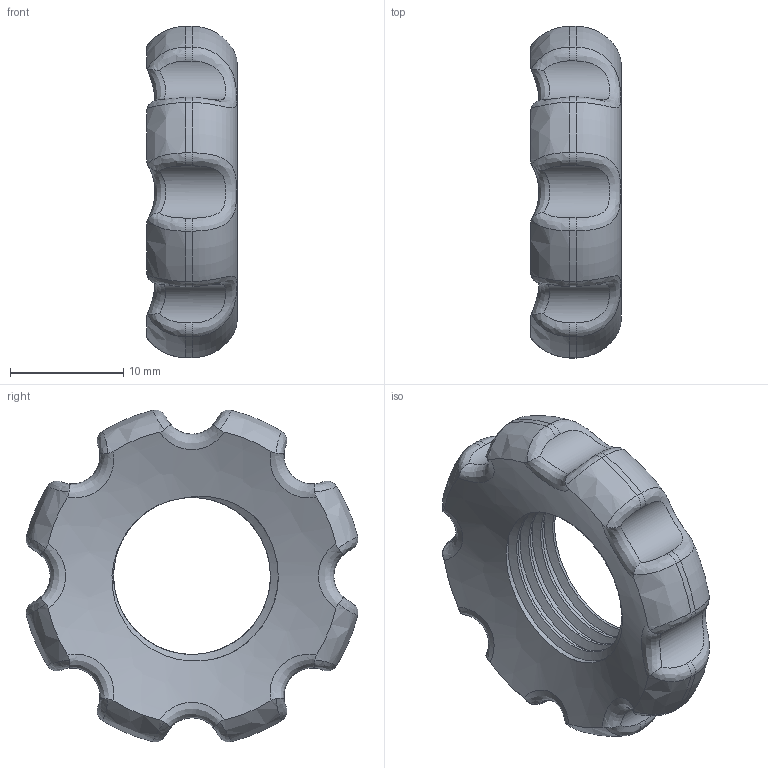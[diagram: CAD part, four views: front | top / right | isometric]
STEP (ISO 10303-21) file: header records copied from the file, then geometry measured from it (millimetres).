
FILE_DESCRIPTION(/* description */ (''),/* implementation_level */ '2;1');
FILE_NAME(/* name */ 'C:/Users/arthu/Desktop/3D/Porte portap/step_files/tightening screw.step',/* time_stamp */ '2021-01-11T17:20:07+01:00',/* author */ (''),/* organization */ (''),/* preprocessor_version */ 'ST-DEVELOPER v18.1',/* originating_system */ 'Autodesk Translation Framework v9.7.1.1290',/* authorisation */ '');
FILE_SCHEMA (('AUTOMOTIVE_DESIGN { 1 0 10303 214 3 1 1 }'));
Length unit declared in the file: millimetre
Products named in the file (1): tightening screw
Bounding box: 8 x 29.25 x 29.25 mm (x, y, z)
Volume: 3011.4 mm3; surface area: 1943.6 mm2
Topology: 1 solids, 1 shells, 88 faces, 228 edges, 141 vertices
Faces by surface type: cylinder 43, bspline 43, torus 1, plane 1
Full cylindrical faces by diameter (mm): 13.826 x3, 15.203 x4
Entity records: 6737 total; most frequent: CARTESIAN_POINT 4909, ORIENTED_EDGE 456, DIRECTION 239, EDGE_CURVE 228, VERTEX_POINT 141, B_SPLINE_CURVE_WITH_KNOTS 133, AXIS2_PLACEMENT_3D 99, EDGE_LOOP 89
